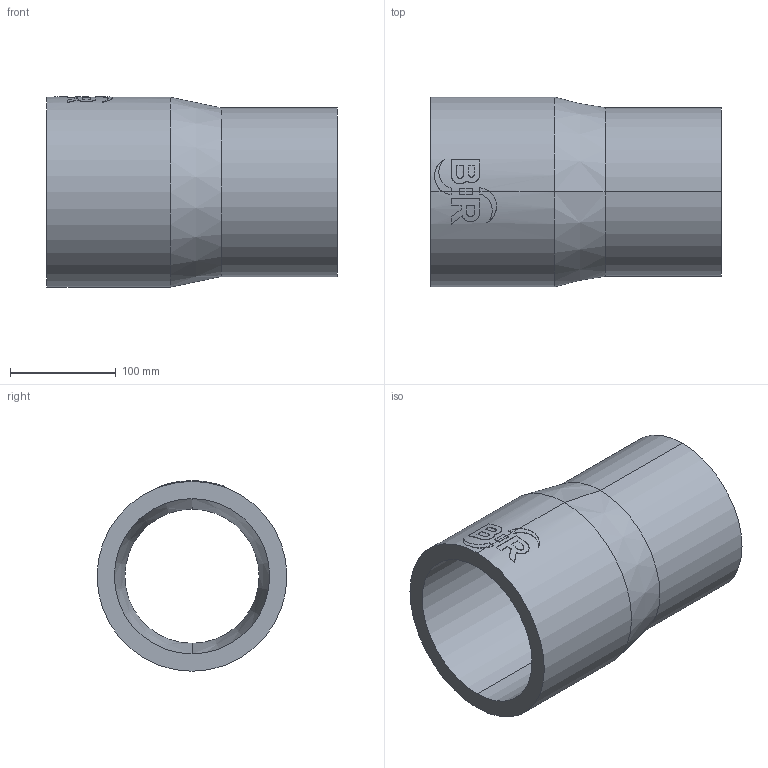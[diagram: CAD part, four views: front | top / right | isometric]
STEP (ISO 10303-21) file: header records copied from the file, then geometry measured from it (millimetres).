
FILE_DESCRIPTION (( 'STEP AP214' ), '1' );
FILE_NAME ('2323181715.STEP', '2018-07-20T11:26:27', ( '' ), ( '' ), 'SwSTEP 2.0', 'SolidWorks 2017', '' );
FILE_SCHEMA (( 'AUTOMOTIVE_DESIGN' ));
Length unit declared in the file: millimetre
Products named in the file (1): 2323181715
Bounding box: 275 x 180 x 180.46 mm (x, y, z)
Volume: 2187778.7 mm3; surface area: 282802.4 mm2
Topology: 1 solids, 1 shells, 63 faces, 160 edges, 104 vertices
Faces by surface type: cylinder 31, plane 28, cone 4
Entity records: 3273 total; most frequent: CARTESIAN_POINT 1064, ORIENTED_EDGE 320, DIRECTION 296, EDGE_CURVE 160, AXIS2_PLACEMENT_3D 112, VERTEX_POINT 104, VECTOR 72, LINE 72
